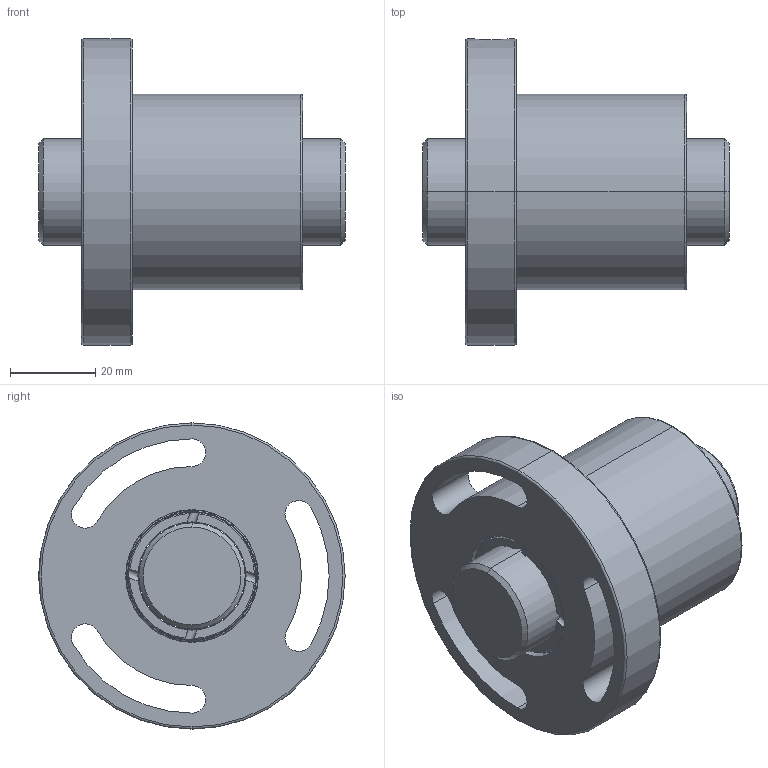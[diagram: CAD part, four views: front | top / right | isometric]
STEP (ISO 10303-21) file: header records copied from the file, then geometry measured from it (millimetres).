
FILE_DESCRIPTION (( 'STEP AP203' ), '1' );
FILE_NAME ('SFCR03205T4-C.STEP', '2020-06-18T01:51:00', ( '' ), ( '' ), 'SwSTEP 2.0', 'SolidWorks 2013', '' );
FILE_SCHEMA (( 'CONFIG_CONTROL_DESIGN' ));
Length unit declared in the file: millimetre
Products named in the file (1): SFCR03205T4-C
Bounding box: 72 x 72 x 72 mm (x, y, z)
Volume: 112857.9 mm3; surface area: 30822.6 mm2
Topology: 2 solids, 2 shells, 106 faces, 274 edges, 176 vertices
Faces by surface type: cylinder 56, torus 26, plane 20, cone 4
Entity records: 4123 total; most frequent: CARTESIAN_POINT 1401, DIRECTION 586, ORIENTED_EDGE 548, EDGE_CURVE 274, AXIS2_PLACEMENT_3D 261, VERTEX_POINT 176, CIRCLE 154, EDGE_LOOP 122
